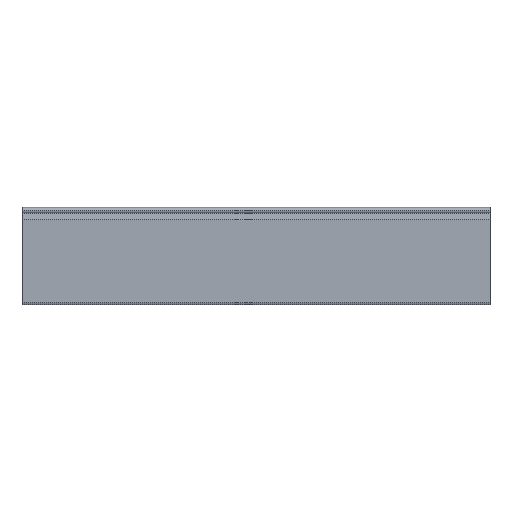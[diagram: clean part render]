
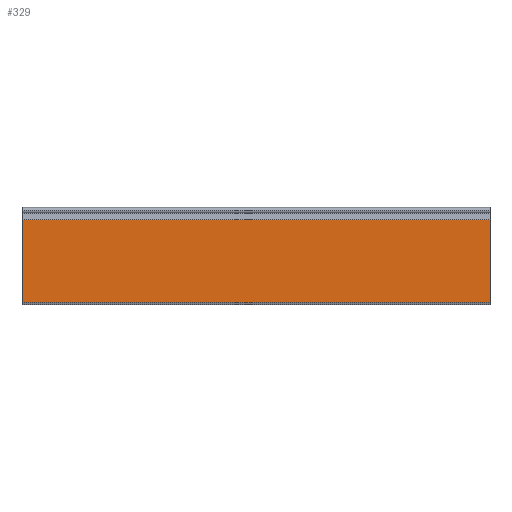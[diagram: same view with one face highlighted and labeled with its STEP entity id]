
A CAD part, top view. The second image highlights one B-rep face of the part: STEP entity #329.
In plain terms, the highlighted planar face has unit normal (0, 0, 1).
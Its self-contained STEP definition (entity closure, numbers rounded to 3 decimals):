
#7 = CARTESIAN_POINT ( 'NONE',  ( 308., -12.164, 4.05 ) ) ;
#45 = CARTESIAN_POINT ( 'NONE',  ( -308., -12.164, 4.05 ) ) ;
#52 = CARTESIAN_POINT ( 'NONE',  ( -308., -121.663, 4.05 ) ) ;
#249 = CARTESIAN_POINT ( 'NONE',  ( -308., -12.164, 4.05 ) ) ;
#258 = DIRECTION ( 'NONE',  ( 0., -1., 0. ) ) ;
#283 = CARTESIAN_POINT ( 'NONE',  ( 308., -12.164, 4.05 ) ) ;
#284 = DIRECTION ( 'NONE',  ( -1., 0., 0. ) ) ;
#285 = CARTESIAN_POINT ( 'NONE',  ( 308., -121.663, 4.05 ) ) ;
#286 = DIRECTION ( 'NONE',  ( -1., 0., 0. ) ) ;
#313 = CARTESIAN_POINT ( 'NONE',  ( 308., -121.663, 4.05 ) ) ;
#329 = ADVANCED_FACE ( 'NONE', ( #721 ), #968, .F. ) ;
#335 = VECTOR ( 'NONE', #286, 1000. ) ;
#434 = ORIENTED_EDGE ( 'NONE', *, *, #597, .F. ) ;
#439 = ORIENTED_EDGE ( 'NONE', *, *, #584, .T. ) ;
#513 = CARTESIAN_POINT ( 'NONE',  ( 308., -12.164, 4.05 ) ) ;
#514 = DIRECTION ( 'NONE',  ( 0., -1., 0. ) ) ;
#584 = EDGE_CURVE ( 'NONE', #919, #926, #1133, .T. ) ;
#596 = EDGE_CURVE ( 'NONE', #881, #919, #1156, .T. ) ;
#597 = EDGE_CURVE ( 'NONE', #869, #926, #1158, .T. ) ;
#612 = AXIS2_PLACEMENT_3D ( 'NONE', #967, #970, #971 ) ;
#699 = EDGE_LOOP ( 'NONE', ( #439, #434, #1086, #1087 ) ) ;
#721 = FACE_OUTER_BOUND ( 'NONE', #699, .T. ) ;
#869 = VERTEX_POINT ( 'NONE', #313 ) ;
#881 = VERTEX_POINT ( 'NONE', #7 ) ;
#919 = VERTEX_POINT ( 'NONE', #45 ) ;
#926 = VERTEX_POINT ( 'NONE', #52 ) ;
#967 = CARTESIAN_POINT ( 'NONE',  ( 308., -12.164, 4.05 ) ) ;
#968 = PLANE ( 'NONE',  #612 ) ;
#970 = DIRECTION ( 'NONE',  ( 0., 0., -1. ) ) ;
#971 = DIRECTION ( 'NONE',  ( 0., 1., 0. ) ) ;
#1077 = EDGE_CURVE ( 'NONE', #881, #869, #1227, .T. ) ;
#1086 = ORIENTED_EDGE ( 'NONE', *, *, #1077, .F. ) ;
#1087 = ORIENTED_EDGE ( 'NONE', *, *, #596, .T. ) ;
#1130 = VECTOR ( 'NONE', #258, 1000. ) ;
#1133 = LINE ( 'NONE', #249, #1130 ) ;
#1156 = LINE ( 'NONE', #283, #1157 ) ;
#1157 = VECTOR ( 'NONE', #284, 1000. ) ;
#1158 = LINE ( 'NONE', #285, #335 ) ;
#1227 = LINE ( 'NONE', #513, #1228 ) ;
#1228 = VECTOR ( 'NONE', #514, 1000. ) ;
